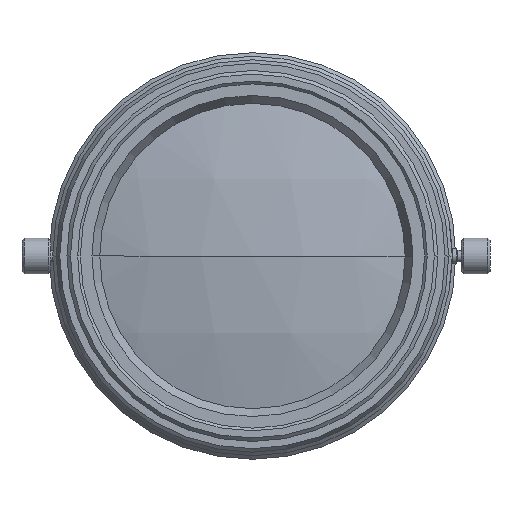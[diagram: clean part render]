
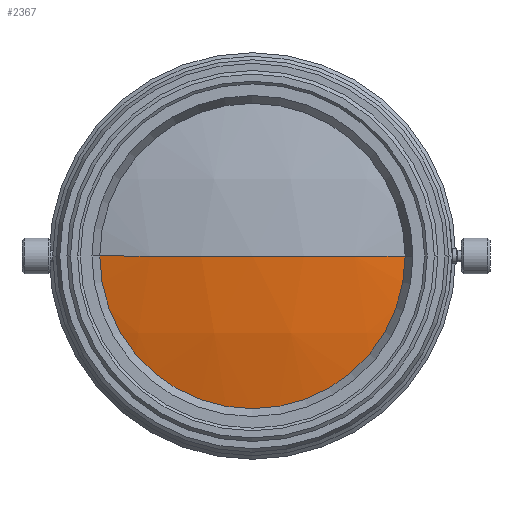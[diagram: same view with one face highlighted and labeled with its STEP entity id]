
A CAD part, left-side view. The second image highlights one B-rep face of the part: STEP entity #2367.
In plain terms, the highlighted spherical face has radius 86.9 mm.
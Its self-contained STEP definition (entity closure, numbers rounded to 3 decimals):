
#92 = DIRECTION ( 'NONE',  ( 0., 1., 0. ) ) ;
#165 = ORIENTED_EDGE ( 'NONE', *, *, #2778, .F. ) ;
#203 = FACE_OUTER_BOUND ( 'NONE', #841, .T. ) ;
#384 = CARTESIAN_POINT ( 'NONE',  ( 134.42, 300., 0. ) ) ;
#468 = VERTEX_POINT ( 'NONE', #482 ) ;
#482 = CARTESIAN_POINT ( 'NONE',  ( 137.096, 321.4, 0. ) ) ;
#558 = VERTEX_POINT ( 'NONE', #903 ) ;
#684 = VERTEX_POINT ( 'NONE', #384 ) ;
#841 = EDGE_LOOP ( 'NONE', ( #1654, #2278, #165 ) ) ;
#865 = CARTESIAN_POINT ( 'NONE',  ( 221.32, 300., 0. ) ) ;
#903 = CARTESIAN_POINT ( 'NONE',  ( 137.096, 278.6, 0. ) ) ;
#1065 = DIRECTION ( 'NONE',  ( -1., 0., 0. ) ) ;
#1370 = DIRECTION ( 'NONE',  ( 0., 0., -1. ) ) ;
#1419 = DIRECTION ( 'NONE',  ( 1., 0., 0. ) ) ;
#1635 = CIRCLE ( 'NONE', #1972, 21.4 ) ;
#1654 = ORIENTED_EDGE ( 'NONE', *, *, #2039, .T. ) ;
#1863 = CIRCLE ( 'NONE', #2320, 86.9 ) ;
#1972 = AXIS2_PLACEMENT_3D ( 'NONE', #2659, #1065, #3209 ) ;
#2039 = EDGE_CURVE ( 'NONE', #468, #558, #1635, .T. ) ;
#2075 = SPHERICAL_SURFACE ( 'NONE', #2265, 86.9 ) ;
#2224 = DIRECTION ( 'NONE',  ( 0., 0., -1. ) ) ;
#2265 = AXIS2_PLACEMENT_3D ( 'NONE', #865, #2224, #92 ) ;
#2278 = ORIENTED_EDGE ( 'NONE', *, *, #3430, .T. ) ;
#2320 = AXIS2_PLACEMENT_3D ( 'NONE', #2512, #2498, #1419 ) ;
#2367 = ADVANCED_FACE ( 'NONE', ( #203 ), #2075, .T. ) ;
#2437 = AXIS2_PLACEMENT_3D ( 'NONE', #2654, #1370, #2960 ) ;
#2498 = DIRECTION ( 'NONE',  ( 0., 0., 1. ) ) ;
#2512 = CARTESIAN_POINT ( 'NONE',  ( 221.32, 300., 0. ) ) ;
#2654 = CARTESIAN_POINT ( 'NONE',  ( 221.32, 300., 0. ) ) ;
#2659 = CARTESIAN_POINT ( 'NONE',  ( 137.096, 300., 0. ) ) ;
#2778 = EDGE_CURVE ( 'NONE', #468, #684, #1863, .T. ) ;
#2960 = DIRECTION ( 'NONE',  ( 0., 1., 0. ) ) ;
#3209 = DIRECTION ( 'NONE',  ( 0., -1., 0. ) ) ;
#3430 = EDGE_CURVE ( 'NONE', #558, #684, #3458, .T. ) ;
#3458 = CIRCLE ( 'NONE', #2437, 86.9 ) ;
